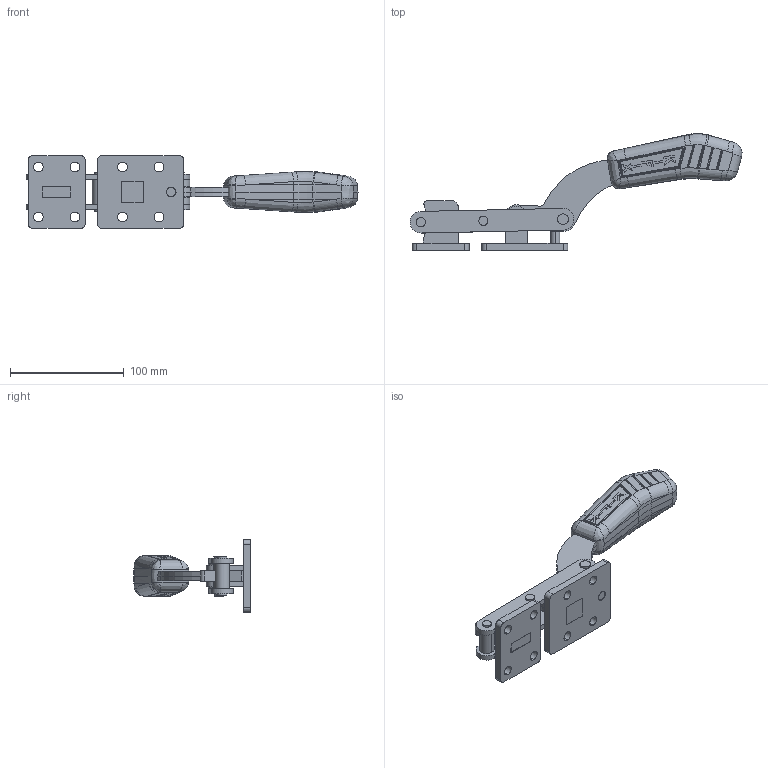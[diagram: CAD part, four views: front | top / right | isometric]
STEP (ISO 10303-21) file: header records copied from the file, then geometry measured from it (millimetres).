
FILE_DESCRIPTION (( 'STEP AP203' ), '1' );
FILE_NAME ('KF-320.STEP', '2014-08-22T17:11:50', ( 'Ricardo' ), ( '' ), 'SwSTEP 2.0', 'SolidWorks 2013', '' );
FILE_SCHEMA (( 'CONFIG_CONTROL_DESIGN' ));
Length unit declared in the file: millimetre
Products named in the file (13): 16.20048; 02.10020; 07.60003; 02.10019; 06.50017; 15.10039; 06.50016; 15.10040; KF-320; 01.10072; 03.10008; 05.20019; 16.20047
Assembly tree (16 placements, depth 2):
  KF-320
    02.10020
    02.10019
    15.10039
    15.10040
    01.10072  x2
    03.10008  x2
    05.20019  x2
    16.20047  x2
    16.20048
    07.60003
    06.50017
    06.50016
Bounding box: 291.77 x 102.7 x 64 mm (x, y, z)
Volume: 242121.5 mm3; surface area: 91127.4 mm2
Topology: 16 solids, 16 shells, 612 faces, 1549 edges, 981 vertices
Faces by surface type: cylinder 203, plane 195, bspline 143, sphere 48, cone 20, torus 3
Entity records: 21815 total; most frequent: CARTESIAN_POINT 8197, ORIENTED_EDGE 2806, DIRECTION 2122, EDGE_CURVE 1403, VERTEX_POINT 893, AXIS2_PLACEMENT_3D 832, EDGE_LOOP 626, ADVANCED_FACE 560
